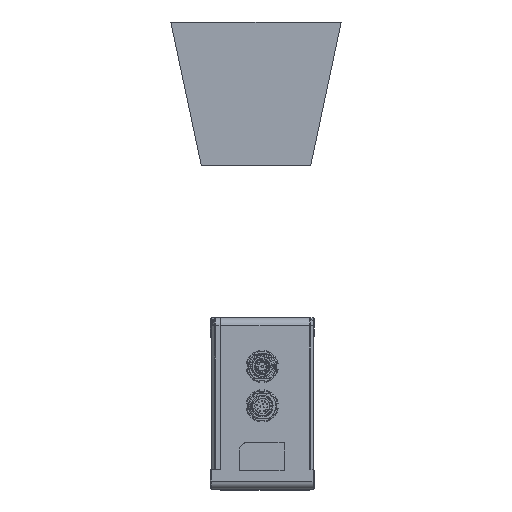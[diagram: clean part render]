
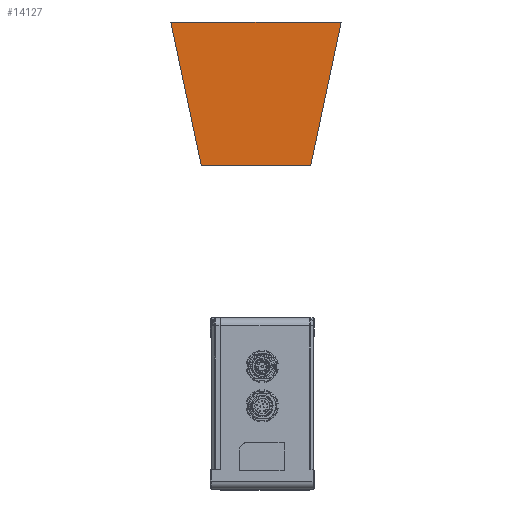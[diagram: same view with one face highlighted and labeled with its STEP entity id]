
A CAD part, left-side view. The second image highlights one B-rep face of the part: STEP entity #14127.
In plain terms, the highlighted planar face has unit normal (1, 0, 0).
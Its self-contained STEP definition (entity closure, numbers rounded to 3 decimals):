
#14088=DIRECTION('',(0.,1.,0.));
#14089=VECTOR('',#14088,95.);
#14090=CARTESIAN_POINT('',(-605.475,17.818,
-112.858));
#14091=LINE('',#14090,#14089);
#14092=DIRECTION('',(0.,-0.208,-0.978));
#14093=VECTOR('',#14092,81.786);
#14094=CARTESIAN_POINT('',(-605.475,112.818,
-112.858));
#14095=LINE('',#14094,#14093);
#14096=DIRECTION('',(0.,-1.,0.));
#14097=VECTOR('',#14096,61.);
#14098=CARTESIAN_POINT('',(-605.475,95.818,
-192.858));
#14099=LINE('',#14098,#14097);
#14100=DIRECTION('',(0.,-0.208,0.978));
#14101=VECTOR('',#14100,81.786);
#14102=CARTESIAN_POINT('',(-605.475,34.818,
-192.858));
#14103=LINE('',#14102,#14101);
#14104=CARTESIAN_POINT('',(-605.475,112.818,
-112.858));
#14105=CARTESIAN_POINT('',(-605.475,17.818,
-112.858));
#14106=VERTEX_POINT('',#14104);
#14107=VERTEX_POINT('',#14105);
#14108=CARTESIAN_POINT('',(-605.475,34.818,
-192.858));
#14109=VERTEX_POINT('',#14108);
#14110=CARTESIAN_POINT('',(-605.475,95.818,
-192.858));
#14111=VERTEX_POINT('',#14110);
#14112=CARTESIAN_POINT('',(-605.475,65.318,
-279.858));
#14113=DIRECTION('',(1.,0.,0.));
#14114=DIRECTION('',(0.,0.,-1.));
#14115=AXIS2_PLACEMENT_3D('',#14112,#14113,#14114);
#14116=PLANE('',#14115);
#14118=ORIENTED_EDGE('',*,*,#14117,.T.);
#14120=ORIENTED_EDGE('',*,*,#14119,.T.);
#14122=ORIENTED_EDGE('',*,*,#14121,.T.);
#14124=ORIENTED_EDGE('',*,*,#14123,.T.);
#14125=EDGE_LOOP('',(#14118,#14120,#14122,#14124));
#14126=FACE_OUTER_BOUND('',#14125,.F.);
#14127=ADVANCED_FACE('',(#14126),#14116,.T.);
#14117=EDGE_CURVE('',#14107,#14106,#14091,.T.);
#14119=EDGE_CURVE('',#14106,#14111,#14095,.T.);
#14121=EDGE_CURVE('',#14111,#14109,#14099,.T.);
#14123=EDGE_CURVE('',#14109,#14107,#14103,.T.);
